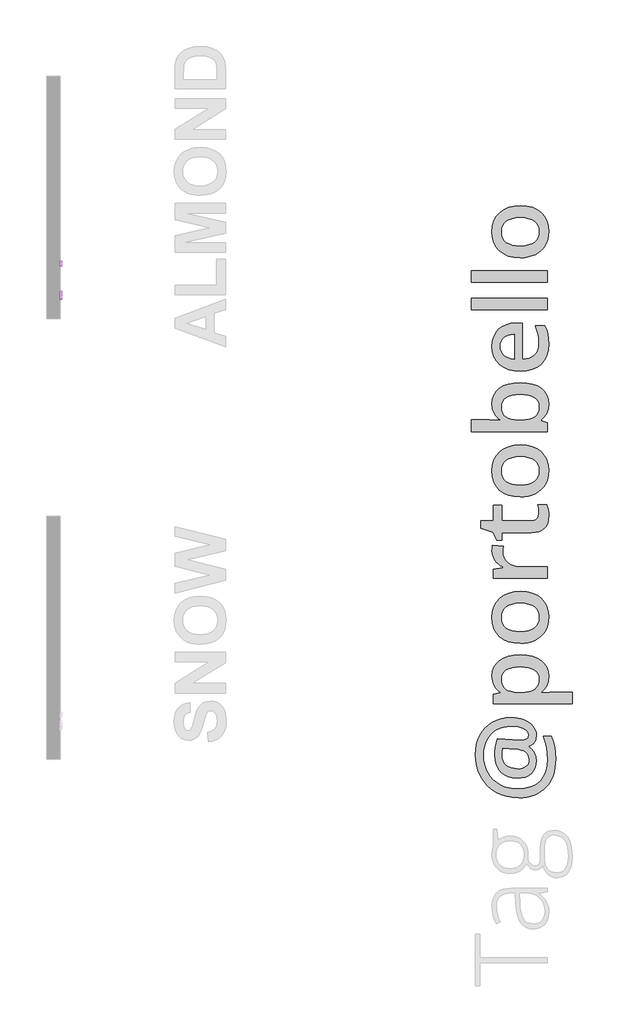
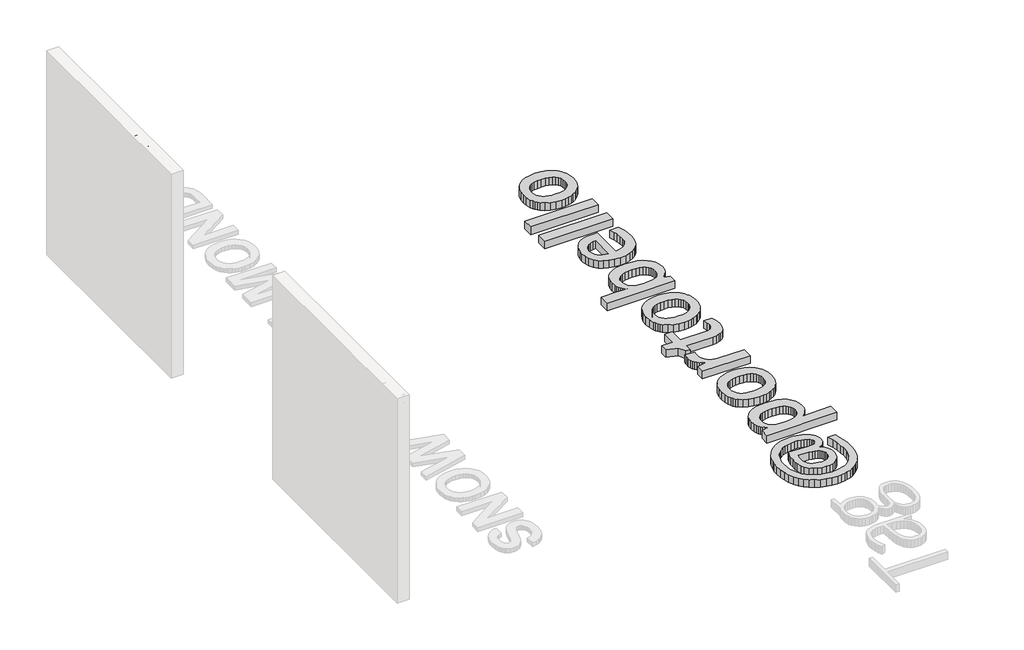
# One storey, part 6 of 10: 3 proxies.
"""IFC4 building model written with IfcOpenShell, lengths in millimetres."""

import ifcopenshell
import ifcopenshell.guid

model = None  # the IFC model being written
_history = None  # IfcOwnerHistory: only IFC2X3 demands one
_inside = {}  # id of a spatial element -> (the spatial element, [elements in it])
_under = {}  # id of a project, library or spatial element -> (it, [spatial elements below it])
_declared = {}  # id of a project -> (the project, [libraries it declares])
_typed = {}  # id of a type object -> (the type object, [elements of that type])
_made_of = {}  # id of a material, layer set ... -> (it, [elements and type objects made of it])


def new_model(schema):
    """Start an empty IFC model of exactly this schema.

    Asked for "IFC4X3", IfcOpenShell would pick the latest addendum, in which some entities
    have other attributes; the version numbers below select the first issue.
    IFC2X3 requires an IfcOwnerHistory on every rooted entity: one is made here for all.
    """
    global model, _history
    if schema == "IFC4X3":
        model = ifcopenshell.file(schema_version=(4, 3, 0, 0))
    else:
        model = ifcopenshell.file(schema=schema)
    _inside.clear()
    _under.clear()
    _declared.clear()
    _typed.clear()
    _made_of.clear()
    _history = None
    if model.schema == "IFC2X3":
        org = make("IfcOrganization", Name="unknown")
        user = make(
            "IfcPersonAndOrganization",
            ThePerson=make("IfcPerson", FamilyName="unknown"),
            TheOrganization=org,
        )
        app = make(
            "IfcApplication",
            ApplicationDeveloper=org,
            Version="unknown",
            ApplicationFullName="unknown",
            ApplicationIdentifier="unknown",
        )
        _history = make(
            "IfcOwnerHistory",
            OwningUser=user,
            OwningApplication=app,
            ChangeAction="ADDED",
            CreationDate=0,
        )
    return model


def make(cls, **values):
    """One entity of the class cls with the attributes given. An attribute that is None is left unset."""
    return model.create_entity(
        cls, **{name: value for name, value in values.items() if value is not None}
    )


def rooted(cls, **values):
    """An entity with a GlobalId (a new one), such as an element, a storey or a relation."""
    return make(cls, GlobalId=ifcopenshell.guid.new(), OwnerHistory=_history, **values)


def si_unit(unit_type, name, prefix=None):
    """IfcSIUnit, for example si_unit("LENGTHUNIT", "METRE", prefix="MILLI")."""
    return make("IfcSIUnit", UnitType=unit_type, Prefix=prefix, Name=name)


def assignment(units):
    """IfcUnitAssignment: the units of a project."""
    return None if units is None else make("IfcUnitAssignment", Units=units)


def point(xyz):
    """IfcCartesianPoint."""
    return None if xyz is None else make("IfcCartesianPoint", Coordinates=xyz)


def direction(xyz):
    """IfcDirection."""
    return None if xyz is None else make("IfcDirection", DirectionRatios=xyz)


def frame(location, z_axis=None, x_axis=None):
    """IfcAxis2Placement3D, a coordinate frame: its origin and axes. An axis left out is left unset."""
    return make(
        "IfcAxis2Placement3D",
        Location=point(location),
        Axis=direction(z_axis),
        RefDirection=direction(x_axis),
    )


def origin():
    """The frame at (0, 0, 0) with its axes left unset."""
    return frame((0.0, 0.0, 0.0))


def origin_with_axes():
    """The frame at (0, 0, 0) with the z axis (0, 0, 1) and the x axis (1, 0, 0) written out."""
    return frame((0.0, 0.0, 0.0), z_axis=(0.0, 0.0, 1.0), x_axis=(1.0, 0.0, 0.0))


def place(relative_to, where):
    """IfcLocalPlacement: puts the frame where relative to a parent placement (None: the world)."""
    return make(
        "IfcLocalPlacement", PlacementRelTo=relative_to, RelativePlacement=where
    )


def context(
    kind, dimensions, precision=None, world=None, true_north=None, identifier=None
):
    """IfcGeometricRepresentationContext, for example the 3D "Model" context."""
    return make(
        "IfcGeometricRepresentationContext",
        ContextIdentifier=identifier,
        ContextType=kind,
        CoordinateSpaceDimension=dimensions,
        Precision=precision,
        WorldCoordinateSystem=world,
        TrueNorth=true_north,
    )


def project(units=None, contexts=None):
    """IfcProject with its units and contexts."""
    return rooted(
        "IfcProject",
        Name="project",
        RepresentationContexts=contexts,
        UnitsInContext=assignment(units),
    )


def spatial(cls, under=None, at=None, **own):
    """A site, building, storey or space (cls), placed at a placement, below another one or the project."""
    s = rooted(cls, ObjectPlacement=at, **own)
    if under is not None:
        _under.setdefault(under.id(), (under, []))[1].append(s)
    return s


def polyline(points):
    """IfcPolyline through the points."""
    return make("IfcPolyline", Points=[point(p) for p in points])


def outline(outer, holes=None, kind="AREA"):
    """IfcArbitraryClosedProfileDef: a profile drawn as a closed curve; with holes, ...WithVoids."""
    if holes is None:
        return make("IfcArbitraryClosedProfileDef", ProfileType=kind, OuterCurve=outer)
    return make(
        "IfcArbitraryProfileDefWithVoids",
        ProfileType=kind,
        OuterCurve=outer,
        InnerCurves=holes,
    )


def extrude(swept, where, along, depth):
    """IfcExtrudedAreaSolid: the profile swept, set in the frame where, extruded along a direction by depth."""
    return make(
        "IfcExtrudedAreaSolid",
        SweptArea=swept,
        Position=where,
        ExtrudedDirection=direction(along),
        Depth=depth,
    )


def shape(context_of_items, identifier, shape_type, items):
    """IfcShapeRepresentation: the items that make up one representation, for example the "Body"."""
    return make(
        "IfcShapeRepresentation",
        ContextOfItems=context_of_items,
        RepresentationIdentifier=identifier,
        RepresentationType=shape_type,
        Items=items,
    )


def made_of(thing, what):
    """Note that an element or type object is made of a material, layer set ...; save() writes the relation."""
    if what is not None:
        _made_of.setdefault(what.id(), (what, []))[1].append(thing)
    return thing


def element(
    cls,
    number,
    at=None,
    inside=None,
    cuts=None,
    type_object=None,
    material=None,
    context=None,
    identifier="Body",
    shape_type=None,
    held_by="IfcProductDefinitionShape",
    body=None,
    shapes=None,
    **own,
):
    """One element of the class cls, such as IfcWall. Its Tag is "e" and its number.

    at: its placement. inside: the storey or other place that contains it. cuts: it is an
    opening in that element (IfcRelVoidsElement). A single representation is given by context,
    identifier, shape_type and body (its items); several are given by shapes. held_by: the class
    of the entity that holds the representations. save() writes the other relations.
    """
    e = rooted(cls, Tag="e%d" % number, ObjectPlacement=at, **own)
    if body is not None:
        shapes = [shape(context, identifier, shape_type, body)]
    if shapes is not None:
        e.Representation = make(held_by, Representations=shapes)
    if inside is not None:
        _inside.setdefault(inside.id(), (inside, []))[1].append(e)
    if cuts is not None:
        rooted(
            "IfcRelVoidsElement", RelatingBuildingElement=cuts, RelatedOpeningElement=e
        )
    if type_object is not None:
        _typed.setdefault(type_object.id(), (type_object, []))[1].append(e)
    return made_of(e, material)


def aggregate(whole, parts):
    """IfcRelAggregates: a whole, such as a stair, and the parts it consists of."""
    return rooted("IfcRelAggregates", RelatingObject=whole, RelatedObjects=parts)


def save(model, path):
    """Write the relations noted so far, then the file.

    IfcRelAggregates (storeys below a building ...), IfcRelContainedInSpatialStructure (elements
    in a storey), IfcRelDefinesByType, IfcRelAssociatesMaterial and IfcRelDeclares: one each for
    every whole, place, type object, material and project.
    """
    for whole, parts in _under.values():
        aggregate(whole, parts)
    for where, things in _inside.values():
        rooted(
            "IfcRelContainedInSpatialStructure",
            RelatedElements=things,
            RelatingStructure=where,
        )
    for kind, things in _typed.values():
        rooted("IfcRelDefinesByType", RelatedObjects=things, RelatingType=kind)
    for what, things in _made_of.values():
        rooted("IfcRelAssociatesMaterial", RelatedObjects=things, RelatingMaterial=what)
    for by, libraries in _declared.values():
        rooted("IfcRelDeclares", RelatingContext=by, RelatedDefinitions=libraries)
    model.write(path)


model = new_model("IFC4")

# Units and contexts
model_context = context("Model", 3, world=origin())
ifc_project = project(units=[si_unit("LENGTHUNIT", "METRE", prefix="MILLI")], contexts=[model_context])

# Site, building, storey
site = spatial("IfcSite", under=ifc_project)
building = spatial("IfcBuilding", under=site)
storey = spatial("IfcBuildingStorey", under=building, Name="PORTOBELLO - SHOWROOM", Elevation=0.0)

# Proxies
placement = place(None, origin())
element("IfcBuildingElementProxy", 1, Name="10mm Arial", ObjectType="10mm Arial", at=placement, inside=storey, context=model_context, shape_type="SweptSolid", body=[
    extrude(outline(polyline([(-4319.6411728, 2518.4745677), (-4279.5420353, 2618.9308778), (-4268.848932, 2618.9308778), (-4228.7497945, 2518.4745677), (-4242.0180718, 2518.4745677), (-4253.5205155, 2549.8671646), (-4294.8949773, 2549.8671646), (-4306.3728955, 2518.4745677), (-4319.6411728, 2518.4745677)]), holes=[polyline([(-4290.2841896, 2562.4242034), (-4258.1067778, 2562.4242034), (-4267.1566748, 2587.121348), (-4274.1954837, 2606.373839), (-4280.4494776, 2589.279589), (-4290.2841896, 2562.4242034)])]), frame((-23726.2609603, 0.0, 0.0), z_axis=(1.0, 0.0, 0.0), x_axis=(0.0, 1.0, 0.0)), (0.0, 0.0, 1.0), 20.0),
    extrude(outline(polyline([(-23706.2609603, -4204.3469555), (-23706.2609603, -4216.9039943), (-23726.2609603, -4216.9039943), (-23726.2609603, -4204.3469555), (-23706.2609603, -4204.3469555)])), frame((0.0, 0.0, 2518.4745677), z_axis=(0.0, 0.0, 1.0), x_axis=(1.0, 0.0, 0.0)), (0.0, 0.0, 1.0), 100.4563101),
    extrude(outline(polyline([(-4185.5113974, 2518.4745677), (-4185.5113974, 2592.2471704), (-4172.9543586, 2592.2471704), (-4172.9543586, 2580.1070646), (-4164.3213944, 2590.0521412), (-4152.0341358, 2593.8168003), (-4139.4525716, 2589.9785648), (-4132.5363901, 2579.2241478), (-4122.7384663, 2590.1686372), (-4110.3653685, 2593.8168003), (-4100.9261296, 2592.299287), (-4093.9455688, 2587.7467474), (-4089.6321524, 2580.0365539), (-4088.1943469, 2569.0460793), (-4088.1943469, 2518.4745677), (-4100.7513857, 2518.4745677), (-4100.7513857, 2563.6504767), (-4101.9163453, 2574.1351135), (-4106.1347255, 2579.2977242), (-4113.3084244, 2581.2597615), (-4125.6569968, 2576.2320409), (-4129.3450138, 2569.6898728), (-4130.5743528, 2560.1188095), (-4130.5743528, 2518.4745677), (-4143.1313915, 2518.4745677), (-4143.1313915, 2565.0484283), (-4146.0376593, 2577.2130596), (-4155.565803, 2581.2597615), (-4164.8609547, 2578.5619602), (-4171.0413722, 2570.66476), (-4172.9543586, 2555.6797001), (-4172.9543586, 2518.4745677), (-4185.5113974, 2518.4745677)])), frame((-23726.2609603, 0.0, 0.0), z_axis=(1.0, 0.0, 0.0), x_axis=(0.0, 1.0, 0.0)), (0.0, 0.0, 1.0), 20.0),
    extrude(outline(polyline([(-4072.4980485, 2555.360869), (-4069.7818531, 2573.1479635), (-4061.6332669, 2585.64982), (-4051.5655629, 2591.7750552), (-4039.5112962, 2593.8168003), (-4026.319661, 2591.3305311), (-4015.7829075, 2583.8717237), (-4008.8759231, 2572.0289891), (-4006.5735949, 2556.3909386), (-4010.6448223, 2534.0482388), (-4022.5028853, 2521.4053609), (-4039.5112962, 2516.9049378), (-4052.862347, 2519.3820099), (-4063.3868377, 2526.8132262), (-4070.2202458, 2538.9042811), (-4072.4980485, 2555.360869)]), holes=[polyline([(-4059.9410097, 2555.3853945), (-4058.4878758, 2544.0209065), (-4054.1284742, 2535.924437), (-4047.5679119, 2531.0775917), (-4039.5112962, 2529.4619766), (-4031.4914687, 2531.0867887), (-4024.9431692, 2535.9612252), (-4020.5837676, 2544.1649937), (-4019.1306337, 2555.777802), (-4020.5929646, 2566.8111961), (-4024.9799574, 2574.7973011), (-4031.537454, 2579.6441464), (-4039.5112962, 2581.2597615), (-4047.5679119, 2579.6502778), (-4054.1284742, 2574.8218266), (-4058.4878758, 2566.7437511), (-4059.9410097, 2555.3853945)])]), frame((-23726.2609603, 0.0, 0.0), z_axis=(1.0, 0.0, 0.0), x_axis=(0.0, 1.0, 0.0)), (0.0, 0.0, 1.0), 20.0),
    extrude(outline(polyline([(-3992.4469263, 2518.4745677), (-3992.4469263, 2592.2471704), (-3979.8898875, 2592.2471704), (-3979.8898875, 2581.9464746), (-3970.2881675, 2590.8492188), (-3957.1793057, 2593.8168003), (-3945.3212427, 2591.4255673), (-3937.2278388, 2585.1470479), (-3933.4631797, 2575.9132098), (-3932.8009921, 2563.773104), (-3932.8009921, 2518.4745677), (-3945.3580309, 2518.4745677), (-3945.3580309, 2562.0808468), (-3946.8050334, 2573.1908831), (-3951.9185932, 2579.0647323), (-3960.5392946, 2581.2597615), (-3974.1631911, 2576.3301428), (-3978.4582134, 2569.1871007), (-3979.8898875, 2557.6172119), (-3979.8898875, 2518.4745677), (-3992.4469263, 2518.4745677)])), frame((-23726.2609603, 0.0, 0.0), z_axis=(1.0, 0.0, 0.0), x_axis=(0.0, 1.0, 0.0)), (0.0, 0.0, 1.0), 20.0),
    extrude(outline(polyline([(-3870.0157983, 2518.4745677), (-3870.0157983, 2530.3203679), (-3878.3238, 2520.2587953), (-3889.8078496, 2516.9049378), (-3905.3569953, 2521.7609802), (-3916.3444042, 2535.3113003), (-3920.2439534, 2555.2872926), (-3916.6509726, 2575.2755477), (-3905.8842928, 2589.0343343), (-3889.8569006, 2593.8168003), (-3878.2808805, 2590.3954977), (-3870.0157983, 2581.5050162), (-3870.0157983, 2618.9308778), (-3857.4587595, 2618.9308778), (-3857.4587595, 2518.4745677), (-3870.0157983, 2518.4745677)]), holes=[polyline([(-3907.6869146, 2555.3363436), (-3906.2705689, 2543.977987), (-3902.0215319, 2535.8999115), (-3895.8472457, 2531.0714603), (-3888.6551527, 2529.4619766), (-3881.4661254, 2530.9978839), (-3875.4481891, 2535.6056059), (-3871.373896, 2543.3709817), (-3870.0157983, 2554.3798504), (-3871.3984215, 2566.415723), (-3875.546291, 2574.7605129), (-3881.7175114, 2579.6349494), (-3889.1701875, 2581.2597615), (-3896.4358569, 2579.6993287), (-3902.3894139, 2575.0180303), (-3906.3625394, 2566.976743), (-3907.6869146, 2555.3363436)])]), frame((-23726.2609603, 0.0, 0.0), z_axis=(1.0, 0.0, 0.0), x_axis=(0.0, 1.0, 0.0)), (0.0, 0.0, 1.0), 20.0),
])
element("IfcBuildingElementProxy", 2, Name="10mm Arial Narrow", ObjectType="10mm Arial Narrow", at=placement, inside=storey, context=model_context, shape_type="SweptSolid", body=[
    extrude(outline(polyline([(-3815.6286257, 2518.4745677), (-3815.6286257, 2619.1931714), (-3784.3317411, 2619.1931714), (-3768.0360395, 2617.3148507), (-3756.5630534, 2607.8344075), (-3752.273375, 2590.8152987), (-3754.0596834, 2578.7394731), (-3759.4186086, 2569.1130794), (-3769.1623974, 2562.811821), (-3784.1032966, 2560.7114015), (-3805.8816641, 2560.7114015), (-3805.8816641, 2518.4745677), (-3815.6286257, 2518.4745677)]), holes=[polyline([(-3805.8816641, 2572.0828568), (-3782.9103091, 2572.0828568), (-3767.0461137, 2576.613671), (-3762.0203366, 2590.2822617), (-3764.4951511, 2600.4480381), (-3770.47278, 2606.247988), (-3783.1387536, 2607.8217162), (-3805.8816641, 2607.8217162), (-3805.8816641, 2572.0828568)])]), frame((-23726.2609603, 0.0, 0.0), z_axis=(1.0, 0.0, 0.0), x_axis=(0.0, 1.0, 0.0)), (0.0, 0.0, 1.0), 20.0),
    extrude(outline(polyline([(-3744.1509069, 2555.0256739), (-3742.1964381, 2571.6164494), (-3736.3330315, 2583.5685342), (-3727.4744647, 2590.7930888), (-3716.5345156, 2593.2012737), (-3705.72148, 2590.7930888), (-3696.8375306, 2583.5685342), (-3690.8979758, 2571.8068198), (-3688.9181242, 2555.7871552), (-3690.8630746, 2538.6252687), (-3696.6979257, 2526.4828135), (-3705.5469739, 2519.2582589), (-3716.5345156, 2516.8500741), (-3727.3951438, 2519.2646046), (-3736.2695747, 2526.5081962), (-3742.1805739, 2538.4666267), (-3744.1509069, 2555.0256739)]), holes=[polyline([(-3734.4039453, 2555.0510566), (-3733.0999084, 2542.4993052), (-3729.1877978, 2533.6280471), (-3723.3466011, 2528.3547886), (-3716.2553058, 2526.5970357), (-3709.5352326, 2528.3706528), (-3703.8431593, 2533.6915039), (-3699.9596042, 2542.5786262), (-3698.6650859, 2555.0510566), (-3699.9691228, 2567.5647339), (-3703.8812333, 2576.4233006), (-3709.7224301, 2581.6965592), (-3716.8137254, 2583.454312), (-3723.5813912, 2581.6870407), (-3729.263946, 2576.3852265), (-3733.1189455, 2567.5171413), (-3734.4039453, 2555.0510566)])]), frame((-23726.2609603, 0.0, 0.0), z_axis=(1.0, 0.0, 0.0), x_axis=(0.0, 1.0, 0.0)), (0.0, 0.0, 1.0), 20.0),
    extrude(outline(polyline([(-3617.4404054, 2526.5970357), (-3615.8159118, 2516.8500741), (-3623.1768985, 2516.8500741), (-3631.4516628, 2518.9695306), (-3635.766724, 2524.7694804), (-3636.9343288, 2539.4153056), (-3636.9343288, 2581.8298184), (-3645.0567968, 2581.8298184), (-3645.0567968, 2585.0788056), (-3646.6812904, 2580.2053248), (-3654.2453388, 2581.8298184), (-3660.3244985, 2579.5073002), (-3664.1953621, 2573.0220171), (-3666.1752137, 2557.6147106), (-3666.1752137, 2518.4745677), (-3675.9221754, 2518.4745677), (-3675.9221754, 2591.5767801), (-3666.1752137, 2591.5767801), (-3666.1752137, 2581.8805838), (-3659.9310664, 2590.967595), (-3653.5346228, 2593.2012737), (-3645.0567968, 2591.5767801), (-3636.9343288, 2591.5767801), (-3636.9343288, 2607.8217162), (-3627.1873671, 2615.9441842), (-3627.1873671, 2591.5767801), (-3617.4404054, 2591.5767801), (-3617.4404054, 2581.8298184), (-3627.1873671, 2581.8298184), (-3627.1873671, 2537.1816269), (-3626.3243549, 2529.1860724), (-3621.7047012, 2526.5970357), (-3617.4404054, 2526.5970357)])), frame((-23726.2609603, 0.0, 0.0), z_axis=(1.0, 0.0, 0.0), x_axis=(0.0, 1.0, 0.0)), (0.0, 0.0, 1.0), 20.0),
    extrude(outline(polyline([(-3610.942431, 2555.0256739), (-3608.9879621, 2571.6164494), (-3603.1245555, 2583.5685342), (-3594.2659888, 2590.7930888), (-3583.3260397, 2593.2012737), (-3572.5130041, 2590.7930888), (-3563.6290547, 2583.5685342), (-3557.6894999, 2571.8068198), (-3555.7096483, 2555.7871552), (-3557.6545987, 2538.6252687), (-3563.4894497, 2526.4828135), (-3572.3384979, 2519.2582589), (-3583.3260397, 2516.8500741), (-3594.1866678, 2519.2646046), (-3603.0610987, 2526.5081962), (-3608.9720979, 2538.4666267), (-3610.942431, 2555.0256739)]), holes=[polyline([(-3601.1954694, 2555.0510566), (-3599.8914325, 2542.4993052), (-3595.9793219, 2533.6280471), (-3590.1381252, 2528.3547886), (-3583.0468298, 2526.5970357), (-3576.3267567, 2528.3706528), (-3570.6346833, 2533.6915039), (-3566.7511283, 2542.5786262), (-3565.45661, 2555.0510566), (-3566.7606468, 2567.5647339), (-3570.6727574, 2576.4233006), (-3576.5139542, 2581.6965592), (-3583.6052495, 2583.454312), (-3590.3729153, 2581.6870407), (-3596.05547, 2576.3852265), (-3599.9104695, 2567.5171413), (-3601.1954694, 2555.0510566)])]), frame((-23726.2609603, 0.0, 0.0), z_axis=(1.0, 0.0, 0.0), x_axis=(0.0, 1.0, 0.0)), (0.0, 0.0, 1.0), 20.0),
    extrude(outline(polyline([(-3532.9667378, 2518.4745677), (-3542.7136994, 2518.4745677), (-3542.7136994, 2619.1931714), (-3532.9667378, 2619.1931714), (-3532.9667378, 2583.7842873), (-3525.5676771, 2590.8660641), (-3516.3664437, 2593.2012737), (-3503.4847171, 2589.0004347), (-3494.2073356, 2576.2710043), (-3490.729904, 2555.5840935), (-3492.662163, 2539.1297501), (-3498.45894, 2526.927011), (-3506.8320623, 2519.3693083), (-3516.4933573, 2516.8500741), (-3525.8341955, 2519.4644935), (-3532.9667378, 2527.2316035), (-3532.9667378, 2518.4745677)]), holes=[polyline([(-3532.9667378, 2555.5840935), (-3530.8853553, 2538.3365403), (-3524.996566, 2529.6048872), (-3516.5441227, 2526.5970357), (-3510.6013951, 2528.3865169), (-3505.3630378, 2533.7549607), (-3500.4768656, 2555.1779701), (-3505.1853588, 2576.613671), (-3510.4300618, 2581.7441518), (-3516.7471844, 2583.454312), (-3522.7248132, 2581.6648308), (-3528.0171088, 2576.2963871), (-3532.9667378, 2555.5840935)])]), frame((-23726.2609603, 0.0, 0.0), z_axis=(1.0, 0.0, 0.0), x_axis=(0.0, 1.0, 0.0)), (0.0, 0.0, 1.0), 20.0),
    extrude(outline(polyline([(-3438.7461085, 2541.2174782), (-3428.9991468, 2539.5929846), (-3432.6986772, 2529.706418), (-3438.5176641, 2522.5865671), (-3446.2213173, 2518.2841973), (-3455.5748469, 2516.8500741), (-3467.1684009, 2519.2646046), (-3476.3125232, 2526.5081962), (-3482.2520779, 2538.3143304), (-3484.2319295, 2554.4164888), (-3482.2425594, 2571.0834124), (-3476.2744491, 2583.2639417), (-3467.2604133, 2590.7169407), (-3456.1332666, 2593.2012737), (-3445.4503174, 2590.8026073), (-3436.7028001, 2583.6066083), (-3430.867949, 2571.8671037), (-3428.9229987, 2555.8379207), (-3428.9991468, 2552.5889335), (-3474.4849679, 2552.5889335), (-3468.4819563, 2533.1457756), (-3462.5519201, 2528.2342207), (-3455.4479334, 2526.5970357), (-3445.2694656, 2530.2521463), (-3438.7461085, 2541.2174782)]), holes=[polyline([(-3473.8250173, 2562.3358951), (-3438.7461085, 2562.3358951), (-3443.0104042, 2576.6009796), (-3448.8357367, 2581.7409789), (-3456.0571185, 2583.454312), (-3468.2662033, 2577.7432017), (-3473.8250173, 2562.3358951)])]), frame((-23726.2609603, 0.0, 0.0), z_axis=(1.0, 0.0, 0.0), x_axis=(0.0, 1.0, 0.0)), (0.0, 0.0, 1.0), 20.0),
    extrude(outline(polyline([(-23706.2609603, -3406.2562363), (-23706.2609603, -3416.0031979), (-23726.2609603, -3416.0031979), (-23726.2609603, -3406.2562363), (-23706.2609603, -3406.2562363)])), frame((0.0, 0.0, 2518.4745677), z_axis=(0.0, 0.0, 1.0), x_axis=(1.0, 0.0, 0.0)), (0.0, 0.0, 1.0), 100.7186038),
    extrude(outline(polyline([(-23706.2609603, -3380.2643385), (-23706.2609603, -3390.0113002), (-23726.2609603, -3390.0113002), (-23726.2609603, -3380.2643385), (-23706.2609603, -3380.2643385)])), frame((0.0, 0.0, 2518.4745677), z_axis=(0.0, 0.0, 1.0), x_axis=(1.0, 0.0, 0.0)), (0.0, 0.0, 1.0), 100.7186038),
    extrude(outline(polyline([(-3368.8928833, 2555.0256739), (-3366.9384144, 2571.6164494), (-3361.0750078, 2583.5685342), (-3352.2164411, 2590.7930888), (-3341.2764919, 2593.2012737), (-3330.4634563, 2590.7930888), (-3321.5795069, 2583.5685342), (-3315.6399522, 2571.8068198), (-3313.6601006, 2555.7871552), (-3315.6050509, 2538.6252687), (-3321.439902, 2526.4828135), (-3330.2889502, 2519.2582589), (-3341.2764919, 2516.8500741), (-3352.1371201, 2519.2646046), (-3361.011551, 2526.5081962), (-3366.9225502, 2538.4666267), (-3368.8928833, 2555.0256739)]), holes=[polyline([(-3359.1459216, 2555.0510566), (-3357.8418848, 2542.4993052), (-3353.9297742, 2533.6280471), (-3348.0885774, 2528.3547886), (-3340.9972821, 2526.5970357), (-3334.2772089, 2528.3706528), (-3328.5851356, 2533.6915039), (-3324.7015806, 2542.5786262), (-3323.4070622, 2555.0510566), (-3324.7110991, 2567.5647339), (-3328.6232097, 2576.4233006), (-3334.4644064, 2581.6965592), (-3341.5557018, 2583.454312), (-3348.3233675, 2581.6870407), (-3354.0059223, 2576.3852265), (-3357.8609218, 2567.5171413), (-3359.1459216, 2555.0510566)])]), frame((-23726.2609603, 0.0, 0.0), z_axis=(1.0, 0.0, 0.0), x_axis=(0.0, 1.0, 0.0)), (0.0, 0.0, 1.0), 20.0),
])
element("IfcBuildingElementProxy", 3, Name="80mm OpenSans Bold", ObjectType="80mm OpenSans Bold", at=placement, inside=storey, context=model_context, shape_type="SweptSolid", body=[
    extrude(outline(polyline([(-18699.5847478, -8836.8805327), (-18661.4791331, -8838.4278926), (-18625.0410616, -8843.0699722), (-18590.2705333, -8850.8067716), (-18557.1675481, -8861.6382907), (-18526.6860609, -8875.2790942), (-18499.7800267, -8891.4437468), (-18476.4494453, -8910.1322485), (-18456.6943169, -8931.3445994), (-18440.9728401, -8954.6902037), (-18429.7432139, -8979.7784656), (-18423.0054381, -9006.6093853), (-18420.7595129, -9035.1829627), (-18426.4682192, -9075.8049151), (-18433.6041021, -9093.952592), (-18443.5943381, -9110.6580694), (-18456.0182858, -9125.3354538), (-18470.4553037, -9137.3988517), (-18486.9053916, -9146.8482629), (-18505.3685497, -9153.6836876), (-18505.3685497, -9160.4139519), (-18468.3520961, -9190.5799579), (-18441.9117721, -9227.2358616), (-18426.0475777, -9269.6004717), (-18420.7595129, -9316.8925967), (-18424.3124314, -9359.5576649), (-18434.971187, -9397.4154016), (-18452.7357797, -9430.4658066), (-18477.6062095, -9458.7088799), (-18508.5458954, -9481.3183615), (-18544.5182567, -9497.4679913), (-18585.5232933, -9507.1577691), (-18631.5610051, -9510.387695), (-18684.7045541, -9506.1061653), (-18732.605107, -9493.2615761), (-18775.2626638, -9471.8539274), (-18812.6772245, -9441.8832192), (-18843.1211544, -9404.7015136), (-18864.8668186, -9361.6608725), (-18877.9142171, -9312.761296), (-18882.26335, -9258.0027841), (-18880.4305548, -9213.6851956), (-18874.9321692, -9164.8607336), (-18866.1888348, -9116.6371882), (-18854.6211931, -9074.122349), (-18603.4381151, -9086.3810447), (-18590.6986862, -9086.3810447), (-18552.8409496, -9082.7755459), (-18525.7997091, -9071.9590498), (-18516.335275, -9063.8466776), (-18509.5749649, -9053.9315561), (-18504.1667168, -9028.693065), (-18507.6294978, -9007.938913), (-18518.017841, -8989.4231747), (-18535.3317464, -8973.1458503), (-18559.5712139, -8959.1069396), (-18589.1738607, -8947.8021988), (-18622.5773041, -8939.7273839), (-18659.7815441, -8934.882495), (-18700.7865807, -8933.2675321), (-18745.8778492, -8935.6862208), (-18788.1297874, -8942.942287), (-18827.5423953, -8955.0357306), (-18864.1156731, -8971.9665517), (-18897.2562155, -8993.3591775), (-18926.3706178, -9018.8380352), (-18951.4588797, -9048.4031247), (-18972.5210015, -9082.0544462), (-18989.1889216, -9119.0558769), (-19001.0945789, -9158.6712942), (-19008.2379732, -9200.900698), (-19010.6191047, -9245.7440884), (-19007.6295453, -9302.7184798), (-18998.6608672, -9355.8620287), (-18983.7130704, -9405.1747353), (-18962.7861549, -9450.6565994), (-18936.3082736, -9491.6466131), (-18904.7075796, -9527.4837682), (-18867.9840727, -9558.1680646), (-18826.1377531, -9583.6995025), (-18779.9498121, -9603.785135), (-18730.2014412, -9618.1320153), (-18676.8926402, -9626.7401435), (-18620.0234092, -9629.6095196), (-18545.8477843, -9624.2538517), (-18480.7610209, -9608.186848), (-18451.6259621, -9596.1365952), (-18424.7631188, -9581.4085085), (-18400.1724907, -9564.0025878), (-18377.854078, -9543.9188332), (-18357.9956671, -9521.3337638), (-18340.7850442, -9496.4238989), (-18326.2222095, -9469.1892385), (-18314.3071629, -9439.6297825), (-18298.4204342, -9373.536484), (-18293.1248579, -9298.1440033), (-18296.2195777, -9236.4298834), (-18305.5037369, -9173.3937473), (-18320.9773356, -9109.035595), (-18342.6403738, -9043.3554265), (-18252.5029056, -9043.3554265), (-18231.8914712, -9102.5757431), (-18217.1690181, -9164.3800005), (-18208.3355462, -9228.7681986), (-18205.3910556, -9295.7403375), (-18207.0867667, -9345.3553801), (-18212.1739, -9392.164894), (-18220.6524556, -9436.1688793), (-18232.5224335, -9477.3673358), (-18247.7838336, -9515.7602637), (-18266.4366559, -9551.3476629), (-18288.4809004, -9584.1295333), (-18313.9165673, -9614.1058751), (-18342.3868621, -9640.8936039), (-18373.534991, -9664.1096356), (-18407.3609538, -9683.75397), (-18443.8647506, -9699.8266073), (-18483.0463813, -9712.3275474), (-18524.9058459, -9721.2567904), (-18569.4431445, -9726.6143362), (-18616.6582771, -9728.4001847), (-18685.7261121, -9724.5392965), (-18750.8729672, -9712.9566319), (-18812.0988425, -9693.6521908), (-18869.4037379, -9666.6259732), (-18921.5031945, -9632.7493081), (-18967.1127534, -9592.8935242), (-19006.2324146, -9547.0586217), (-19038.8621781, -9495.2446004), (-19064.5738909, -9438.6232474), (-19082.9394, -9378.36635), (-19093.9587055, -9314.4739079), (-19097.6318073, -9246.9459213), (-19094.5671334, -9188.7246283), (-19085.3731116, -9133.7633071), (-19070.049742, -9082.0619577), (-19048.5970246, -9033.62058), (-19021.4806696, -8989.4381976), (-18989.1663873, -8950.5138343), (-18951.6541776, -8916.8474899), (-18908.9440406, -8888.4391645), (-18861.8772593, -8865.8822631), (-18811.2951167, -8849.7701907), (-18757.1976129, -8840.1029472), (-18699.5847478, -8836.8805327)]), holes=[polyline([(-18629.6380725, -9405.1071322), (-18600.2307235, -9403.5184593), (-18574.7443544, -9398.7524407), (-18553.1789651, -9390.8090763), (-18535.5345557, -9379.6883662), (-18521.8111262, -9365.3903103), (-18512.0086765, -9347.9149086), (-18506.1272067, -9327.2621612), (-18504.1667168, -9303.4320681), (-18506.6304742, -9278.1485082), (-18514.0217466, -9255.8995765), (-18526.3405339, -9236.6852729), (-18543.5868362, -9220.5055973), (-18565.7606534, -9207.3605499), (-18592.8619855, -9197.2501305), (-18624.8908325, -9190.1743393), (-18661.8471944, -9186.1331761), (-18790.4433157, -9179.4029118), (-18797.2937633, -9215.6982657), (-18799.5772458, -9254.3972854), (-18796.7153812, -9288.0110496), (-18788.1297874, -9317.7038339), (-18773.8204643, -9343.4756383), (-18753.787412, -9365.3264629), (-18728.8568906, -9382.7305057), (-18699.8551602, -9395.1619649), (-18666.7822208, -9402.6208404), (-18629.6380725, -9405.1071322)])]), origin_with_axes(), (0.0, 0.0, 1.0), 100.0),
    extrude(outline(polyline([(-18282.3083617, -8378.2610946), (-18287.5062891, -8431.8177736), (-18303.1000711, -8479.034784), (-18329.0897077, -8519.9121259), (-18365.4751991, -8554.4497991), (-18365.4751991, -8562.1415297), (-18271.4918656, -8554.4497991), (-18020.7895207, -8554.4497991), (-18020.7895207, -8683.2862869), (-18897.6468112, -8683.2862869), (-18897.6468112, -8578.9671904), (-18820.4891385, -8560.9396968), (-18820.4891385, -8554.4497991), (-18842.1784667, -8538.6194062), (-18860.9758846, -8520.9336838), (-18876.881392, -8501.3926319), (-18889.894989, -8479.9962504), (-18900.0166755, -8456.7445393), (-18907.2464516, -8431.6374987), (-18913.0302725, -8375.8574288), (-18907.8699024, -8323.0518953), (-18892.3887922, -8276.4057556), (-18866.586942, -8235.9190094), (-18830.4643516, -8201.591657), (-18785.0275562, -8174.2499583), (-18731.2830908, -8154.7201735), (-18669.2309554, -8143.0023026), (-18598.87115, -8139.0963457), (-18528.3385812, -8143.0699057), (-18466.0085219, -8154.9905859), (-18411.8809723, -8174.8583862), (-18365.9559322, -8202.6733066), (-18329.3601201, -8237.4889037), (-18303.2202544, -8278.358734), (-18287.5363349, -8325.2827977), (-18282.3083617, -8378.2610946)]), holes=[polyline([(-18805.3460438, -8409.7491168), (-18802.5517823, -8444.8351263), (-18794.1689977, -8474.8584147), (-18780.1976902, -8499.8189819), (-18760.6378596, -8519.716828), (-18734.9486811, -8534.9125029), (-18702.5893301, -8545.7665563), (-18663.5598063, -8552.2789884), (-18617.86011, -8554.4497991), (-18598.87115, -8554.4497991), (-18547.522839, -8552.3015228), (-18503.8061669, -8545.8566938), (-18467.7211338, -8535.1153122), (-18439.2677397, -8520.0773779), (-18417.7098619, -8500.1569974), (-18402.3113777, -8474.7682772), (-18393.0722872, -8443.9112173), (-18389.9925904, -8407.5858176), (-18393.4027913, -8376.6611545), (-18403.6333939, -8349.5072423), (-18420.6843983, -8326.1240807), (-18444.5558045, -8306.5116699), (-18474.7218105, -8291.0005139), (-18510.6566145, -8279.9211168), (-18552.3602164, -8273.2734785), (-18599.8326163, -8271.0575991), (-18647.4627568, -8273.2584556), (-18688.9184807, -8279.8610252), (-18724.1997881, -8290.8653077), (-18753.3066788, -8306.2713033), (-18776.073901, -8325.9438058), (-18792.3362026, -8349.7476088), (-18802.0935835, -8377.6827125), (-18805.3460438, -8409.7491168)])]), origin_with_axes(), (0.0, 0.0, 1.0), 100.0),
    extrude(outline(polyline([(-18598.87115, -7430.9763956), (-18528.3385812, -7435.7837272), (-18466.0085219, -7450.2057222), (-18411.8809723, -7474.2423803), (-18365.9559322, -7507.8937018), (-18346.3510329, -7528.065716), (-18329.3601201, -7550.1231056), (-18314.983194, -7574.0658706), (-18303.2202544, -7599.894011), (-18287.5363349, -7657.2064178), (-18282.3083617, -7722.0603262), (-18284.719539, -7763.711348), (-18291.9530708, -7802.8535435), (-18304.0089572, -7839.4869129), (-18320.8871981, -7873.6114561), (-18342.264801, -7904.5886993), (-18367.8187732, -7931.7801689), (-18397.5491148, -7955.1858648), (-18431.4558258, -7974.805787), (-18468.9154553, -7990.316943), (-18509.3045525, -8001.3963401), (-18552.6231174, -8008.0439784), (-18598.87115, -8010.2598578), (-18668.8403597, -8005.4900835), (-18730.6821743, -7991.1807604), (-18784.3965939, -7967.3318886), (-18829.9836184, -7933.9434681), (-18849.447678, -7913.8860036), (-18866.3165296, -7891.8718048), (-18880.5901732, -7867.9008719), (-18892.268609, -7841.9732047), (-18907.8398566, -7784.2476678), (-18913.0302725, -7718.6951941), (-18907.7121618, -7655.8017756), (-18891.75783, -7599.8038735), (-18865.1672769, -7550.7014877), (-18827.9405025, -7508.4946183), (-18781.7150042, -7474.5803958), (-18728.1282794, -7450.3559513), (-18667.180328, -7435.8212845), (-18598.87115, -7430.9763956)]), holes=[polyline([(-18598.87115, -7877.5775047), (-18549.9152376, -7875.1137472), (-18507.4867802, -7867.7224748), (-18471.5857777, -7855.4036875), (-18442.2122303, -7838.1573852), (-18419.3661378, -7815.9835681), (-18403.0475004, -7788.882236), (-18393.2563179, -7756.8533889), (-18389.9925904, -7719.897027), (-18393.2563179, -7683.2786805), (-18403.0475004, -7651.5427803), (-18419.3661378, -7624.6893262), (-18442.2122303, -7602.7183183), (-18471.5857777, -7585.6297567), (-18507.4867802, -7573.4236412), (-18549.9152376, -7566.0999719), (-18598.87115, -7563.6587488), (-18647.2637032, -7566.1149948), (-18689.203916, -7573.4837328), (-18724.6917884, -7585.7649629), (-18753.7273204, -7602.9586849), (-18776.3105119, -7625.064899), (-18792.4413629, -7652.0836051), (-18802.1198736, -7684.0148032), (-18805.3460438, -7720.8584933), (-18802.0109575, -7759.2495433), (-18792.0056985, -7791.9769557), (-18775.3302669, -7819.0407305), (-18751.9846626, -7840.4408678), (-18722.4045502, -7856.6881464), (-18687.0255939, -7868.2933454), (-18645.8477938, -7875.2564648), (-18598.87115, -7877.5775047)])]), origin_with_axes(), (0.0, 0.0, 1.0), 100.0),
    extrude(outline(polyline([(-18913.0302725, -6980.2890547), (-18911.6481646, -6945.6161753), (-18907.5018411, -6917.5533768), (-18787.3185502, -6929.8120725), (-18792.3662484, -6957.2138628), (-18794.0488145, -6985.5771195), (-18790.909026, -7021.6321068), (-18781.4896606, -7054.0815953), (-18765.7907182, -7082.9255851), (-18743.8121989, -7108.1640762), (-18716.8160271, -7128.6703502), (-18686.0641276, -7143.3176888), (-18651.5565002, -7152.106092), (-18613.2931449, -7155.0355597), (-18297.691823, -7155.0355597), (-18297.691823, -7283.8720475), (-18897.6468112, -7283.8720475), (-18897.6468112, -7182.9180832), (-18795.4910139, -7165.8520559), (-18795.4910139, -7159.3621581), (-18821.1351236, -7143.5655668), (-18843.9849718, -7125.5005159), (-18864.0405585, -7105.1670054), (-18881.3018837, -7082.5650352), (-18895.1830538, -7058.3706365), (-18905.0981753, -7033.2598402), (-18911.0472482, -7007.2326462), (-18913.0302725, -6980.2890547)])), origin_with_axes(), (0.0, 0.0, 1.0), 100.0),
    extrude(outline(polyline([(-18389.9925904, -6561.3301025), (-18393.6581808, -6513.4370611), (-18404.6549519, -6465.4238364), (-18304.9028204, -6465.4238364), (-18296.0693485, -6490.1815943), (-18288.7982594, -6521.1888834), (-18283.9308362, -6555.9218545), (-18282.3083617, -6591.8566584), (-18285.3429898, -6635.235315), (-18294.4468741, -6672.8301507), (-18309.6200146, -6704.6411655), (-18330.8624113, -6730.6683594), (-18358.1740641, -6750.9117325), (-18391.5549732, -6765.3712847), (-18431.0051384, -6774.047016), (-18476.5245599, -6776.9389265), (-18805.3460438, -6776.9389265), (-18805.3460438, -6860.5864969), (-18859.4285247, -6860.5864969), (-18904.1367089, -6770.9297619), (-19036.0979624, -6726.9426774), (-19036.0979624, -6647.3813388), (-18897.6468112, -6647.3813388), (-18897.6468112, -6471.6733675), (-18805.3460438, -6471.6733675), (-18805.3460438, -6647.3813388), (-18480.8511583, -6647.3813388), (-18459.1655858, -6645.9015821), (-18440.4996184, -6641.4623118), (-18424.8532562, -6634.0635279), (-18412.2264992, -6623.7052305), (-18402.4991641, -6610.9282444), (-18395.5510676, -6596.2733944), (-18389.9925904, -6561.3301025)])), origin_with_axes(), (0.0, 0.0, 1.0), 100.0),
    extrude(outline(polyline([(-18598.87115, -5800.3295045), (-18528.3385812, -5805.1368361), (-18466.0085219, -5819.558831), (-18411.8809723, -5843.5954892), (-18365.9559322, -5877.2468107), (-18346.3510329, -5897.4188249), (-18329.3601201, -5919.4762145), (-18314.983194, -5943.4189795), (-18303.2202544, -5969.2471199), (-18287.5363349, -6026.5595267), (-18282.3083617, -6091.4134351), (-18284.719539, -6133.0644568), (-18291.9530708, -6172.2066524), (-18304.0089572, -6208.8400218), (-18320.8871981, -6242.9645649), (-18342.264801, -6273.9418081), (-18367.8187732, -6301.1332777), (-18397.5491148, -6324.5389736), (-18431.4558258, -6344.1588959), (-18468.9154553, -6359.6700518), (-18509.3045525, -6370.749449), (-18552.6231174, -6377.3970873), (-18598.87115, -6379.6129667), (-18668.8403597, -6374.8431923), (-18730.6821743, -6360.5338693), (-18784.3965939, -6336.6849975), (-18829.9836184, -6303.296577), (-18849.447678, -6283.2391124), (-18866.3165296, -6261.2249137), (-18880.5901732, -6237.2539807), (-18892.268609, -6211.3263136), (-18907.8398566, -6153.6007767), (-18913.0302725, -6088.0483029), (-18907.7121618, -6025.1548845), (-18891.75783, -5969.1569824), (-18865.1672769, -5920.0545966), (-18827.9405025, -5877.8477271), (-18781.7150042, -5843.9335047), (-18728.1282794, -5819.7090601), (-18667.180328, -5805.1743934), (-18598.87115, -5800.3295045)]), holes=[polyline([(-18598.87115, -6246.9306135), (-18549.9152376, -6244.4668561), (-18507.4867802, -6237.0755837), (-18471.5857777, -6224.7567963), (-18442.2122303, -6207.5104941), (-18419.3661378, -6185.3366769), (-18403.0475004, -6158.2353448), (-18393.2563179, -6126.2064978), (-18389.9925904, -6089.2501358), (-18393.2563179, -6052.6317894), (-18403.0475004, -6020.8958891), (-18419.3661378, -5994.0424351), (-18442.2122303, -5972.0714272), (-18471.5857777, -5954.9828655), (-18507.4867802, -5942.77675), (-18549.9152376, -5935.4530807), (-18598.87115, -5933.0118576), (-18647.2637032, -5935.4681037), (-18689.203916, -5942.8368417), (-18724.6917884, -5955.1180717), (-18753.7273204, -5972.3117938), (-18776.3105119, -5994.4180078), (-18792.4413629, -6021.4367139), (-18802.1198736, -6053.367912), (-18805.3460438, -6090.2116022), (-18802.0109575, -6128.6026522), (-18792.0056985, -6161.3300646), (-18775.3302669, -6188.3938394), (-18751.9846626, -6209.7939766), (-18722.4045502, -6226.0412553), (-18687.0255939, -6237.6464543), (-18645.8477938, -6244.6095737), (-18598.87115, -6246.9306135)])]), origin_with_axes(), (0.0, 0.0, 1.0), 100.0),
    extrude(outline(polyline([(-18913.0302725, -5345.3155651), (-18907.8699024, -5292.5100316), (-18892.3887922, -5245.8638918), (-18866.586942, -5205.3771457), (-18830.4643516, -5171.0497932), (-18785.0275562, -5143.7080946), (-18731.2830908, -5124.1783098), (-18669.2309554, -5112.4604389), (-18598.87115, -5108.554482), (-18528.1432833, -5112.5055077), (-18465.7080637, -5124.3585847), (-18411.5654911, -5144.1137132), (-18365.7155656, -5171.770893), (-18329.2249139, -5206.4587953), (-18303.1601627, -5247.3060913), (-18287.521312, -5294.312781), (-18282.3083617, -5347.4788643), (-18287.5062891, -5401.1407037), (-18303.1000711, -5448.4328287), (-18329.0897077, -5489.3552392), (-18365.4751991, -5523.9079354), (-18365.4751991, -5532.5611323), (-18297.691823, -5556.1170573), (-18297.691823, -5652.7444232), (-19143.782191, -5652.7444232), (-19143.782191, -5523.9079354), (-18943.7971949, -5523.9079354), (-18877.8165682, -5526.0712346), (-18822.1717045, -5529.1960002), (-18822.1717045, -5523.9079354), (-18843.4666814, -5507.8672218), (-18861.922328, -5490.0312702), (-18877.5386444, -5470.4000808), (-18890.3156305, -5448.9736535), (-18900.2532863, -5425.7519882), (-18907.351612, -5400.7350851), (-18913.0302725, -5345.3155651)]), holes=[polyline([(-18805.3460438, -5379.2072531), (-18802.4992021, -5414.7514614), (-18793.958677, -5444.9475132), (-18779.7244685, -5469.7954086), (-18759.7965765, -5489.2951476), (-18733.198512, -5504.0776924), (-18698.9537855, -5514.7740053), (-18657.0623972, -5521.3840863), (-18607.524347, -5523.9079354), (-18598.87115, -5523.9079354), (-18547.522839, -5521.759659), (-18503.8061669, -5515.3148301), (-18467.7211338, -5504.5734484), (-18439.2677397, -5489.5355142), (-18417.7098619, -5469.6151337), (-18402.3113777, -5444.2264135), (-18393.0722872, -5413.3693536), (-18389.9925904, -5377.0439539), (-18393.365234, -5345.5333973), (-18403.4831648, -5318.0640039), (-18420.3463828, -5294.6357736), (-18443.954888, -5275.2487065), (-18473.9331076, -5260.0530316), (-18509.9054689, -5249.1989782), (-18551.8719718, -5242.6865461), (-18599.8326163, -5240.5157354), (-18647.9998259, -5242.6827904), (-18689.7447409, -5249.1839552), (-18725.0673612, -5260.0192301), (-18753.9676869, -5275.1886148), (-18776.4457181, -5294.6921095), (-18792.5014546, -5318.5297141), (-18802.1348965, -5346.7014286), (-18805.3460438, -5379.2072531)])]), origin_with_axes(), (0.0, 0.0, 1.0), 100.0),
    extrude(outline(polyline([(-18282.3083617, -4679.7405), (-18287.4837547, -4746.5548983), (-18303.0099336, -4805.662543), (-18314.6545678, -4832.3263328), (-18328.8868984, -4857.0634343), (-18345.7069256, -4879.8738473), (-18365.1146492, -4900.757572), (-18410.4312613, -4935.6182378), (-18463.5748103, -4960.5187134), (-18524.545296, -4975.4589987), (-18593.3427186, -4980.4390939), (-18663.8752875, -4975.8195486), (-18726.4457133, -4961.9609129), (-18781.0539961, -4938.8631867), (-18827.7001359, -4906.5263699), (-18865.0320707, -4866.1072269), (-18891.6977383, -4818.7625217), (-18907.6971389, -4764.4922544), (-18913.0302725, -4703.296425), (-18908.538422, -4646.5774231), (-18895.0628705, -4596.1229753), (-18872.603618, -4551.9330815), (-18841.1606645, -4514.0077418), (-18801.8457055, -4483.5638119), (-18755.7704363, -4461.8181477), (-18702.934857, -4448.7707492), (-18643.3389676, -4444.4216164), (-18574.5941252, -4444.4216164), (-18574.5941252, -4847.7567407), (-18532.6952255, -4843.7906921), (-18495.9341613, -4834.5365787), (-18464.3109329, -4819.9944005), (-18437.8255402, -4800.1641575), (-18416.8986247, -4775.4063996), (-18401.9508278, -4746.0816766), (-18392.9821498, -4712.1899885), (-18389.9925904, -4673.7313354), (-18392.5164395, -4621.9623829), (-18400.0879868, -4573.8590207), (-18413.5485154, -4525.8758418), (-18433.7393083, -4474.4674391), (-18325.8147131, -4474.4674391), (-18305.5037369, -4521.8497015), (-18292.1633916, -4569.7727888), (-18284.7721192, -4621.3614664), (-18282.3083617, -4679.7405)]), holes=[polyline([(-18820.729505, -4703.5367916), (-18818.273259, -4732.5535449), (-18810.904521, -4758.550693), (-18798.623291, -4781.5282359), (-18781.4295689, -4801.4861737), (-18759.5336756, -4818.0789793), (-18733.1459318, -4830.9611258), (-18702.2663375, -4840.1326132), (-18666.8948927, -4845.5934414), (-18666.8948927, -4571.094805), (-18702.4616353, -4573.8064405), (-18733.44639, -4580.7395141), (-18759.8491567, -4591.8940258), (-18781.6699355, -4607.2699756), (-18798.7584972, -4626.4016532), (-18810.9646127, -4648.8233484), (-18818.2882819, -4674.5350612), (-18820.729505, -4703.5367916)])]), origin_with_axes(), (0.0, 0.0, 1.0), 100.0),
    extrude(outline(polyline([(-18297.691823, -4170.6440797), (-18297.691823, -4299.4805675), (-19143.782191, -4299.4805675), (-19143.782191, -4170.6440797), (-18297.691823, -4170.6440797)])), origin_with_axes(), (0.0, 0.0, 1.0), 100.0),
    extrude(outline(polyline([(-18297.691823, -3862.9748549), (-18297.691823, -3991.8113428), (-19143.782191, -3991.8113428), (-19143.782191, -3862.9748549), (-18297.691823, -3862.9748549)])), origin_with_axes(), (0.0, 0.0, 1.0), 100.0),
    extrude(outline(polyline([(-18598.87115, -3138.9907104), (-18528.3385812, -3143.7980421), (-18466.0085219, -3158.220037), (-18411.8809723, -3182.2566952), (-18365.9559322, -3215.9080166), (-18346.3510329, -3236.0800309), (-18329.3601201, -3258.1374205), (-18314.983194, -3282.0801855), (-18303.2202544, -3307.9083258), (-18287.5363349, -3365.2207327), (-18282.3083617, -3430.074641), (-18284.719539, -3471.7256628), (-18291.9530708, -3510.8678584), (-18304.0089572, -3547.5012277), (-18320.8871981, -3581.6257709), (-18342.264801, -3612.6030141), (-18367.8187732, -3639.7944837), (-18397.5491148, -3663.2001796), (-18431.4558258, -3682.8201018), (-18468.9154553, -3698.3312578), (-18509.3045525, -3709.410655), (-18552.6231174, -3716.0582932), (-18598.87115, -3718.2741727), (-18668.8403597, -3713.5043983), (-18730.6821743, -3699.1950752), (-18784.3965939, -3675.3462034), (-18829.9836184, -3641.9577829), (-18849.447678, -3621.9003184), (-18866.3165296, -3599.8861197), (-18880.5901732, -3575.9151867), (-18892.268609, -3549.9875196), (-18907.8398566, -3492.2619826), (-18913.0302725, -3426.7095089), (-18907.7121618, -3363.8160905), (-18891.75783, -3307.8181884), (-18865.1672769, -3258.7158026), (-18827.9405025, -3216.5089331), (-18781.7150042, -3182.5947107), (-18728.1282794, -3158.3702661), (-18667.180328, -3143.8355994), (-18598.87115, -3138.9907104)]), holes=[polyline([(-18598.87115, -3585.5918195), (-18549.9152376, -3583.128062), (-18507.4867802, -3575.7367896), (-18471.5857777, -3563.4180023), (-18442.2122303, -3546.1717001), (-18419.3661378, -3523.9978829), (-18403.0475004, -3496.8965508), (-18393.2563179, -3464.8677038), (-18389.9925904, -3427.9113418), (-18393.2563179, -3391.2929954), (-18403.0475004, -3359.5570951), (-18419.3661378, -3332.703641), (-18442.2122303, -3310.7326332), (-18471.5857777, -3293.6440715), (-18507.4867802, -3281.437956), (-18549.9152376, -3274.1142867), (-18598.87115, -3271.6730636), (-18647.2637032, -3274.1293096), (-18689.203916, -3281.4980477), (-18724.6917884, -3293.7792777), (-18753.7273204, -3310.9729997), (-18776.3105119, -3333.0792138), (-18792.4413629, -3360.0979199), (-18802.1198736, -3392.029118), (-18805.3460438, -3428.8728081), (-18802.0109575, -3467.2638581), (-18792.0056985, -3499.9912705), (-18775.3302669, -3527.0550454), (-18751.9846626, -3548.4551826), (-18722.4045502, -3564.7024612), (-18687.0255939, -3576.3076603), (-18645.8477938, -3583.2707797), (-18598.87115, -3585.5918195)])]), origin_with_axes(), (0.0, 0.0, 1.0), 100.0),
])

save(model, "model.ifc")
